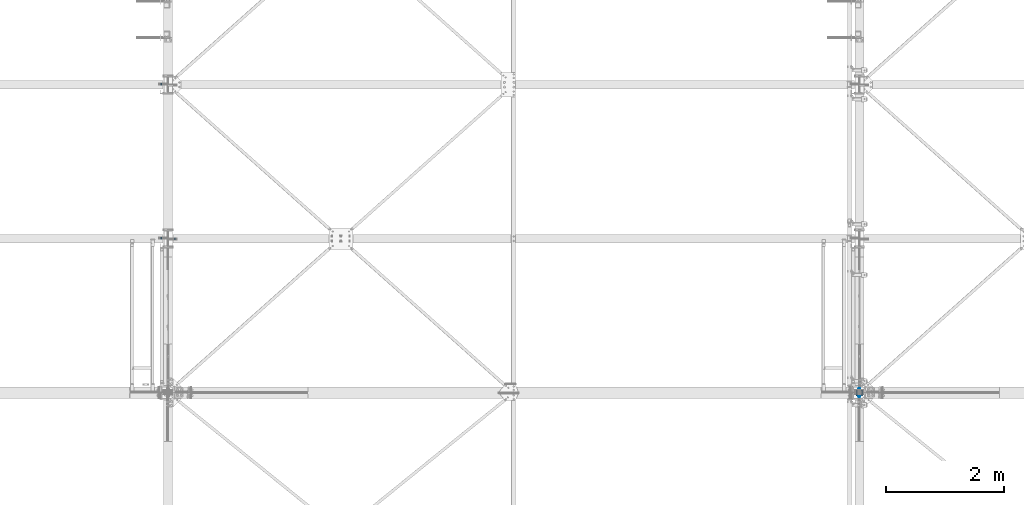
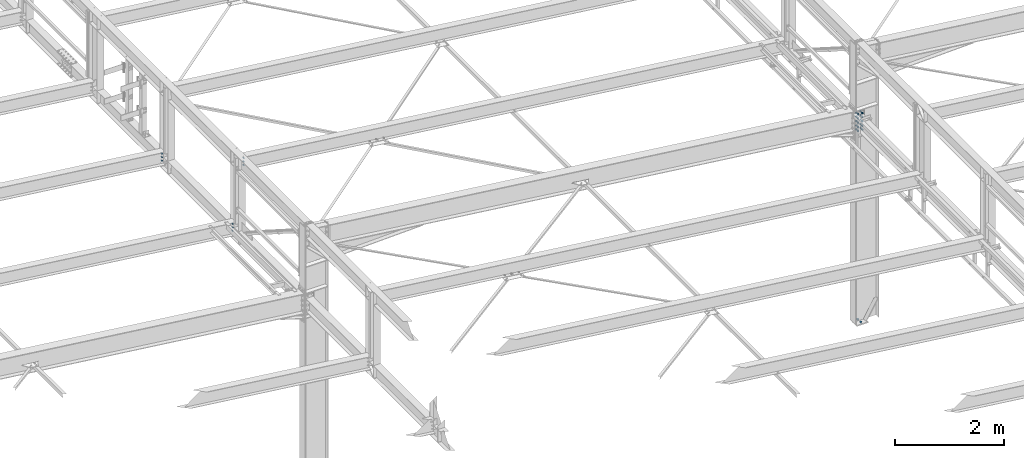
# One storey, part 139 of 3134: 5 mechanical fasteners, 5 elements without a shape of their own.
"""IFC2X3 building model written with IfcOpenShell, lengths in millimetres."""

from ifc_helpers import new_model, si_unit, frame, origin_with_axes, place, context, subcontext, project, spatial, faceted_brep, source, transform, mapped, material, type_object, element, aggregate, save


model = new_model("IFC2X3")

# Units and contexts
model_context = context("Model", 3, precision=1e-05, world=origin_with_axes())
body_context = subcontext(model_context, "Body", "Model", "MODEL_VIEW")
ifc_project = project(units=[si_unit("LENGTHUNIT", "METRE", prefix="MILLI"), si_unit("AREAUNIT", "SQUARE_METRE"), si_unit("VOLUMEUNIT", "CUBIC_METRE"), si_unit("MASSUNIT", "GRAM", prefix="KILO"), si_unit("TIMEUNIT", "SECOND"), si_unit("PLANEANGLEUNIT", "RADIAN"), si_unit("SOLIDANGLEUNIT", "STERADIAN"), si_unit("THERMODYNAMICTEMPERATUREUNIT", "DEGREE_CELSIUS"), si_unit("LUMINOUSINTENSITYUNIT", "LUMEN")], contexts=[model_context])

# Site, building, storey
site_placement = place(None, origin_with_axes())
site = spatial("IfcSite", under=ifc_project, at=site_placement, CompositionType="ELEMENT")
building_placement = place(site_placement, origin_with_axes())
building = spatial("IfcBuilding", under=site, at=building_placement, Name="Undefined", CompositionType="ELEMENT")
storey_placement = place(building_placement, origin_with_axes())
storey = spatial("IfcBuildingStorey", under=building, at=storey_placement, Name="Undefined", CompositionType="ELEMENT", Elevation=0.0)

# Assembly, mechanical fastener
assembly_1_placement = place(storey_placement, origin_with_axes())
assembly_1 = element("IfcElementAssembly", 1, at=assembly_1_placement, inside=storey, Name="300", AssemblyPlace="NOTDEFINED", PredefinedType="RIGID_FRAME")
ifc_material_1 = material(Name="HR10.9")
mechanical_fastener_type = type_object("IfcMechanicalFastenerType", Name="Bolt assembly")
shared_shape_1 = source(origin_with_axes(), body_context, "Body", "Brep", [
    faceted_brep([(18.475208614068, -18.3999996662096, 0.0), (9.23760430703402, -18.3999996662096, 16.0), (-9.23760430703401, -18.3999996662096, 16.0), (-18.475208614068, -18.3999996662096, 2.2625605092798e-15), (-9.23760430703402, -18.3999996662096, -16.0), (9.237604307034, -18.3999996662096, -16.0), (9.237604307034, -4.50000004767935, -16.0), (-9.23760430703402, -4.50000004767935, -16.0), (-18.475208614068, -4.50000004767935, 2.2625605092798e-15), (-9.23760430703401, -4.50000004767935, 16.0), (9.23760430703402, -4.50000004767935, 16.0), (18.475208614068, -4.50000004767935, 0.0), (10.0, -4.50000004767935, 0.0), (8.66025403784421, -4.50000004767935, 5.0000000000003), (4.9999999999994, -4.50000004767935, 8.66025403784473), (-1.03633598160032e-12, -4.50000004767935, 10.0), (-5.00000000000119, -4.50000004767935, 8.6602540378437), (-8.66025403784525, -4.50000004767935, 4.99999999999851), (-10.0, -4.50000004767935, -2.07267196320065e-12), (-8.66025403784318, -4.50000004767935, -5.00000000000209), (-4.99999999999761, -4.50000004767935, -8.66025403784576), (3.09790571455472e-12, -4.50000004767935, -10.0), (5.00000000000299, -4.50000004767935, -8.66025403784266), (8.66025403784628, -4.50000004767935, -4.99999999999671), (8.66025403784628, 80.4999999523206, -4.99999999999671), (5.00000000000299, 80.4999999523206, -8.66025403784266), (3.09790571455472e-12, 80.4999999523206, -10.0), (-4.99999999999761, 80.4999999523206, -8.66025403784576), (-8.66025403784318, 80.4999999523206, -5.00000000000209), (-10.0, 80.4999999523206, -2.07267196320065e-12), (-8.66025403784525, 80.4999999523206, 4.99999999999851), (-5.00000000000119, 80.4999999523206, 8.6602540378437), (-1.03633598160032e-12, 80.4999999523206, 10.0), (4.9999999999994, 80.4999999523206, 8.66025403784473), (8.66025403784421, 80.4999999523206, 5.0000000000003), (10.0, 80.4999999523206, 0.0), (22.0, -4.50000004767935, 0.0), (19.0525588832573, -4.50000004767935, 11.0000000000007), (10.9999999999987, -4.50000004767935, 19.0525588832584), (-2.27993915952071e-12, -4.50000004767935, 22.0), (-11.0000000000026, -4.50000004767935, 19.0525588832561), (-19.0525588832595, -4.50000004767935, 10.9999999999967), (-22.0, -4.50000004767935, -4.55987831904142e-12), (-19.052558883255, -4.50000004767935, -11.0000000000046), (-10.9999999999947, -4.50000004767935, -19.0525588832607), (6.81539257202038e-12, -4.50000004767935, -22.0), (11.0000000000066, -4.50000004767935, -19.0525588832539), (19.0525588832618, -4.50000004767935, -10.9999999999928), (19.0525588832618, -0.799999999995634, -10.9999999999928), (11.0000000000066, -0.799999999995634, -19.0525588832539), (6.81539257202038e-12, -0.799999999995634, -22.0), (-10.9999999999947, -0.799999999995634, -19.0525588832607), (-19.052558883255, -0.799999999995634, -11.0000000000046), (-22.0, -0.799999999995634, -4.55987831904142e-12), (-19.0525588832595, -0.799999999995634, 10.9999999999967), (-11.0000000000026, -0.799999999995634, 19.0525588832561), (-2.27993915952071e-12, -0.799999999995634, 22.0), (10.9999999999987, -0.799999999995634, 19.0525588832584), (19.0525588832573, -0.799999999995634, 11.0000000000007), (22.0, -0.799999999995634, 0.0), (22.0, 49.4000000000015, 0.0), (19.0525588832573, 49.4000000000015, 11.0000000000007), (10.9999999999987, 49.4000000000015, 19.0525588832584), (-2.27993915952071e-12, 49.4000000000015, 22.0), (-11.0000000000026, 49.4000000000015, 19.0525588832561), (-19.0525588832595, 49.4000000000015, 10.9999999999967), (-22.0, 49.4000000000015, -4.55987831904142e-12), (-19.052558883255, 49.4000000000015, -11.0000000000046), (-10.9999999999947, 49.4000000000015, -19.0525588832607), (6.81539257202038e-12, 49.4000000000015, -22.0), (11.0000000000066, 49.4000000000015, -19.0525588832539), (19.0525588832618, 49.4000000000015, -10.9999999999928), (19.0525588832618, 53.1000000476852, -10.9999999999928), (11.0000000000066, 53.1000000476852, -19.0525588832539), (6.81539257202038e-12, 53.1000000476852, -22.0), (-10.9999999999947, 53.1000000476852, -19.0525588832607), (-19.052558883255, 53.1000000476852, -11.0000000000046), (-22.0, 53.1000000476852, -4.55987831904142e-12), (-19.0525588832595, 53.1000000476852, 10.9999999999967), (-11.0000000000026, 53.1000000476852, 19.0525588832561), (-2.27993915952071e-12, 53.1000000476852, 22.0), (10.9999999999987, 53.1000000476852, 19.0525588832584), (19.0525588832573, 53.1000000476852, 11.0000000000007), (22.0, 53.1000000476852, 0.0), (18.475208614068, 53.1000000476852, 0.0), (9.23760430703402, 53.1000000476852, 16.0), (-9.23760430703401, 53.1000000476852, 16.0), (-18.475208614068, 53.1000000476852, 2.2625605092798e-15), (-9.23760430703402, 53.1000000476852, -16.0), (9.237604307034, 53.1000000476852, -16.0), (9.237604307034, 71.6499992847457, -16.0), (-9.23760430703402, 71.6499992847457, -16.0), (-18.475208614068, 71.6499992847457, 2.2625605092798e-15), (-9.23760430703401, 71.6499992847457, 16.0), (9.23760430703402, 71.6499992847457, 16.0), (18.475208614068, 71.6499992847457, 0.0)], [[[0, 1, 2, 3, 4, 5]], [[6, 7, 8, 9, 10, 11]], [[0, 11, 10, 1]], [[1, 10, 9, 2]], [[2, 9, 8, 3]], [[3, 8, 7, 4]], [[4, 7, 6, 5]], [[5, 6, 11, 0]], [[12, 13, 14, 15, 16, 17, 18, 19, 20, 21, 22, 23]], [[24, 25, 26, 27, 28, 29, 30, 31, 32, 33, 34, 35]], [[12, 35, 34, 13]], [[13, 34, 33, 14]], [[14, 33, 32, 15]], [[15, 32, 31, 16]], [[16, 31, 30, 17]], [[17, 30, 29, 18]], [[18, 29, 28, 19]], [[19, 28, 27, 20]], [[20, 27, 26, 21]], [[21, 26, 25, 22]], [[22, 25, 24, 23]], [[23, 24, 35, 12]], [[36, 37, 38, 39, 40, 41, 42, 43, 44, 45, 46, 47]], [[48, 49, 50, 51, 52, 53, 54, 55, 56, 57, 58, 59]], [[36, 59, 58, 37]], [[37, 58, 57, 38]], [[38, 57, 56, 39]], [[39, 56, 55, 40]], [[40, 55, 54, 41]], [[41, 54, 53, 42]], [[42, 53, 52, 43]], [[43, 52, 51, 44]], [[44, 51, 50, 45]], [[45, 50, 49, 46]], [[46, 49, 48, 47]], [[47, 48, 59, 36]], [[60, 61, 62, 63, 64, 65, 66, 67, 68, 69, 70, 71]], [[72, 73, 74, 75, 76, 77, 78, 79, 80, 81, 82, 83]], [[60, 83, 82, 61]], [[61, 82, 81, 62]], [[62, 81, 80, 63]], [[63, 80, 79, 64]], [[64, 79, 78, 65]], [[65, 78, 77, 66]], [[66, 77, 76, 67]], [[67, 76, 75, 68]], [[68, 75, 74, 69]], [[69, 74, 73, 70]], [[70, 73, 72, 71]], [[71, 72, 83, 60]], [[84, 85, 86, 87, 88, 89]], [[90, 91, 92, 93, 94, 95]], [[84, 95, 94, 85]], [[85, 94, 93, 86]], [[86, 93, 92, 87]], [[87, 92, 91, 88]], [[88, 91, 90, 89]], [[89, 90, 95, 84]]]),
    faceted_brep([(11.0, 19.2000000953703, 0.0), (9.52627944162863, 19.2000000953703, 5.50000000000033), (5.49999999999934, 19.2000000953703, 9.5262794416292), (-1.13996957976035e-12, 19.2000000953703, 11.0), (-5.50000000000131, 19.2000000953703, 9.52627944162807), (-9.52627944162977, 19.2000000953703, 5.49999999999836), (-11.0, 19.2000000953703, -2.27993915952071e-12), (-9.5262794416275, 19.2000000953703, -5.5000000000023), (-5.49999999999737, 19.2000000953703, -9.52627944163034), (3.40769628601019e-12, 19.2000000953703, -11.0), (5.50000000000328, 19.2000000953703, -9.52627944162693), (9.52627944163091, 19.2000000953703, -5.49999999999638), (9.52627944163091, 29.3999999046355, -5.49999999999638), (5.50000000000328, 29.3999999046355, -9.52627944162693), (3.40769628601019e-12, 29.3999999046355, -11.0), (-5.49999999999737, 29.3999999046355, -9.52627944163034), (-9.5262794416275, 29.3999999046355, -5.5000000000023), (-11.0, 29.3999999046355, -2.27993915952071e-12), (-9.52627944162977, 29.3999999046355, 5.49999999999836), (-5.50000000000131, 29.3999999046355, 9.52627944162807), (-1.13996957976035e-12, 29.3999999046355, 11.0), (5.49999999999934, 29.3999999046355, 9.5262794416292), (9.52627944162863, 29.3999999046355, 5.50000000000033), (11.0, 29.3999999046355, 0.0), (11.0, -0.699999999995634, 0.0), (9.52627944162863, -0.699999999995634, 5.50000000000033), (5.49999999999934, -0.699999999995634, 9.5262794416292), (-1.13996957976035e-12, -0.699999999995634, 11.0), (-5.50000000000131, -0.699999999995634, 9.52627944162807), (-9.52627944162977, -0.699999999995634, 5.49999999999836), (-11.0, -0.699999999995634, -2.27993915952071e-12), (-9.5262794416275, -0.699999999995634, -5.5000000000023), (-5.49999999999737, -0.699999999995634, -9.52627944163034), (3.40769628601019e-12, -0.699999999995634, -11.0), (5.50000000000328, -0.699999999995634, -9.52627944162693), (9.52627944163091, -0.699999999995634, -5.49999999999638), (9.52627944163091, 19.3000000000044, -5.49999999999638), (5.50000000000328, 19.3000000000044, -9.52627944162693), (3.40769628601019e-12, 19.3000000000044, -11.0), (-5.49999999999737, 19.3000000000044, -9.52627944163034), (-9.5262794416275, 19.3000000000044, -5.5000000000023), (-11.0, 19.3000000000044, -2.27993915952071e-12), (-9.52627944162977, 19.3000000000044, 5.49999999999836), (-5.50000000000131, 19.3000000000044, 9.52627944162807), (-1.13996957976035e-12, 19.3000000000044, 11.0), (5.49999999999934, 19.3000000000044, 9.5262794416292), (9.52627944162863, 19.3000000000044, 5.50000000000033), (11.0, 19.3000000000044, 0.0), (11.0, 29.3000000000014, 0.0), (9.52627944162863, 29.3000000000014, 5.50000000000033), (5.49999999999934, 29.3000000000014, 9.5262794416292), (-1.13996957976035e-12, 29.3000000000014, 11.0), (-5.50000000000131, 29.3000000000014, 9.52627944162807), (-9.52627944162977, 29.3000000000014, 5.49999999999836), (-11.0, 29.3000000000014, -2.27993915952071e-12), (-9.5262794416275, 29.3000000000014, -5.5000000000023), (-5.49999999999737, 29.3000000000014, -9.52627944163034), (3.40769628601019e-12, 29.3000000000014, -11.0), (5.50000000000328, 29.3000000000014, -9.52627944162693), (9.52627944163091, 29.3000000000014, -5.49999999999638), (9.52627944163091, 49.4000000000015, -5.49999999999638), (5.50000000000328, 49.4000000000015, -9.52627944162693), (3.40769628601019e-12, 49.4000000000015, -11.0), (-5.49999999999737, 49.4000000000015, -9.52627944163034), (-9.5262794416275, 49.4000000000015, -5.5000000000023), (-11.0, 49.4000000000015, -2.27993915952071e-12), (-9.52627944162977, 49.4000000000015, 5.49999999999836), (-5.50000000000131, 49.4000000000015, 9.52627944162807), (-1.13996957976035e-12, 49.4000000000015, 11.0), (5.49999999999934, 49.4000000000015, 9.5262794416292), (9.52627944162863, 49.4000000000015, 5.50000000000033), (11.0, 49.4000000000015, 0.0)], [[[0, 1, 2, 3, 4, 5, 6, 7, 8, 9, 10, 11]], [[12, 13, 14, 15, 16, 17, 18, 19, 20, 21, 22, 23]], [[0, 23, 22, 1]], [[1, 22, 21, 2]], [[2, 21, 20, 3]], [[3, 20, 19, 4]], [[4, 19, 18, 5]], [[5, 18, 17, 6]], [[6, 17, 16, 7]], [[7, 16, 15, 8]], [[8, 15, 14, 9]], [[9, 14, 13, 10]], [[10, 13, 12, 11]], [[11, 12, 23, 0]], [[24, 25, 26, 27, 28, 29, 30, 31, 32, 33, 34, 35]], [[36, 37, 38, 39, 40, 41, 42, 43, 44, 45, 46, 47]], [[24, 47, 46, 25]], [[25, 46, 45, 26]], [[26, 45, 44, 27]], [[27, 44, 43, 28]], [[28, 43, 42, 29]], [[29, 42, 41, 30]], [[30, 41, 40, 31]], [[31, 40, 39, 32]], [[32, 39, 38, 33]], [[33, 38, 37, 34]], [[34, 37, 36, 35]], [[35, 36, 47, 24]], [[48, 49, 50, 51, 52, 53, 54, 55, 56, 57, 58, 59]], [[60, 61, 62, 63, 64, 65, 66, 67, 68, 69, 70, 71]], [[48, 71, 70, 49]], [[49, 70, 69, 50]], [[50, 69, 68, 51]], [[51, 68, 67, 52]], [[52, 67, 66, 53]], [[53, 66, 65, 54]], [[54, 65, 64, 55]], [[55, 64, 63, 56]], [[56, 63, 62, 57]], [[57, 62, 61, 58]], [[58, 61, 60, 59]], [[59, 60, 71, 48]]]),
])
mechanical_fastener_1_placement = place(assembly_1_placement, frame((44200.0, 19474.3, 4273.5), z_axis=(-1.0, 0.0, 0.0), x_axis=(0.0, 0.0, -1.0)))
mechanical_fastener_1 = element("IfcMechanicalFastener", 2, at=mechanical_fastener_1_placement, type_object=mechanical_fastener_type, material=ifc_material_1, Name="Bolt assembly", NominalDiameter=20.0, NominalLength=85.0, context=body_context, shape_type="MappedRepresentation", body=[
    mapped(shared_shape_1, transform((0.0, 0.0, -45.0))),
    mapped(shared_shape_1, transform((85.0, 0.0, -45.0))),
    mapped(shared_shape_1, transform((185.0, 0.0, -45.0))),
    mapped(shared_shape_1, transform((285.0, 0.0, -45.0))),
    mapped(shared_shape_1, transform((370.0, 0.0, -45.0))),
    mapped(shared_shape_1, transform((0.0, 0.0, 45.0))),
    mapped(shared_shape_1, transform((85.0, 0.0, 45.0))),
    mapped(shared_shape_1, transform((185.0, 0.0, 45.0))),
    mapped(shared_shape_1, transform((285.0, 0.0, 45.0))),
    mapped(shared_shape_1, transform((370.0, 0.0, 45.0))),
])
aggregate(assembly_1, [mechanical_fastener_1])

assembly_2_placement = place(storey_placement, origin_with_axes())
assembly_2 = element("IfcElementAssembly", 3, at=assembly_2_placement, inside=storey, Name="300", AssemblyPlace="NOTDEFINED", PredefinedType="RIGID_FRAME")
ifc_material_2 = material(Name="8.8")
shared_shape_2 = source(origin_with_axes(), body_context, "Body", "Brep", [
    faceted_brep([(13.856406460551, -13.0499999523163, 0.0), (6.92820323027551, -13.0499999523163, 12.0), (-6.92820323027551, -13.0499999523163, 12.0), (-13.856406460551, -13.0499999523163, 1.69692038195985e-15), (-6.92820323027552, -13.0499999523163, -12.0), (6.9282032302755, -13.0499999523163, -12.0), (6.9282032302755, -3.04999995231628, -12.0), (-6.92820323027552, -3.04999995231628, -12.0), (-13.856406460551, -3.04999995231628, 1.69692038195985e-15), (-6.92820323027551, -3.04999995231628, 12.0), (6.92820323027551, -3.04999995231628, 12.0), (13.856406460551, -3.04999995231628, 0.0), (8.0, -3.04999995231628, 0.0), (6.92820323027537, -3.04999995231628, 4.00000000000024), (3.99999999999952, -3.04999995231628, 6.92820323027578), (-8.29068785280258e-13, -3.04999995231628, 8.0), (-4.00000000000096, -3.04999995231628, 6.92820323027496), (-6.9282032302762, -3.04999995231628, 3.99999999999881), (-8.0, -3.04999995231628, -1.65813757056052e-12), (-6.92820323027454, -3.04999995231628, -4.00000000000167), (-3.99999999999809, -3.04999995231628, -6.92820323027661), (2.47832457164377e-12, -3.04999995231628, -8.0), (4.00000000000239, -3.04999995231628, -6.92820323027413), (6.92820323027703, -3.04999995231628, -3.99999999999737), (6.92820323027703, 31.9500000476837, -3.99999999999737), (4.00000000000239, 31.9500000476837, -6.92820323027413), (2.47832457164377e-12, 31.9500000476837, -8.0), (-3.99999999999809, 31.9500000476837, -6.92820323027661), (-6.92820323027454, 31.9500000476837, -4.00000000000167), (-8.0, 31.9500000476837, -1.65813757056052e-12), (-6.9282032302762, 31.9500000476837, 3.99999999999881), (-4.00000000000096, 31.9500000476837, 6.92820323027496), (-8.29068785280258e-13, 31.9500000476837, 8.0), (3.99999999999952, 31.9500000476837, 6.92820323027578), (6.92820323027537, 31.9500000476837, 4.00000000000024), (8.0, 31.9500000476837, 0.0), (13.856406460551, 13.0500000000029, 0.0), (6.92820323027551, 13.0500000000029, 12.0), (-6.92820323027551, 13.0500000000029, 12.0), (-13.856406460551, 13.0500000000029, 1.69692038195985e-15), (-6.92820323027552, 13.0500000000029, -12.0), (6.9282032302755, 13.0500000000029, -12.0), (6.9282032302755, 26.0500000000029, -12.0), (-6.92820323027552, 26.0500000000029, -12.0), (-13.856406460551, 26.0500000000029, 1.69692038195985e-15), (-6.92820323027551, 26.0500000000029, 12.0), (6.92820323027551, 26.0500000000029, 12.0), (13.856406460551, 26.0500000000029, 0.0)], [[[0, 1, 2, 3, 4, 5]], [[6, 7, 8, 9, 10, 11]], [[0, 11, 10, 1]], [[1, 10, 9, 2]], [[2, 9, 8, 3]], [[3, 8, 7, 4]], [[4, 7, 6, 5]], [[5, 6, 11, 0]], [[12, 13, 14, 15, 16, 17, 18, 19, 20, 21, 22, 23]], [[24, 25, 26, 27, 28, 29, 30, 31, 32, 33, 34, 35]], [[12, 35, 34, 13]], [[13, 34, 33, 14]], [[14, 33, 32, 15]], [[15, 32, 31, 16]], [[16, 31, 30, 17]], [[17, 30, 29, 18]], [[18, 29, 28, 19]], [[19, 28, 27, 20]], [[20, 27, 26, 21]], [[21, 26, 25, 22]], [[22, 25, 24, 23]], [[23, 24, 35, 12]], [[36, 37, 38, 39, 40, 41]], [[42, 43, 44, 45, 46, 47]], [[36, 47, 46, 37]], [[37, 46, 45, 38]], [[38, 45, 44, 39]], [[39, 44, 43, 40]], [[40, 43, 42, 41]], [[41, 42, 47, 36]]]),
    faceted_brep([(9.0, 2.95000000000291, 0.0), (7.79422863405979, 2.95000000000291, 4.50000000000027), (4.49999999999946, 2.95000000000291, 7.79422863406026), (-9.3270238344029e-13, 2.95000000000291, 9.0), (-4.50000000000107, 2.95000000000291, 7.79422863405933), (-7.79422863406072, 2.95000000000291, 4.49999999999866), (-9.0, 2.95000000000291, -1.86540476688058e-12), (-7.79422863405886, 2.95000000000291, -4.50000000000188), (-4.49999999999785, 2.95000000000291, -7.79422863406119), (2.78811514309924e-12, 2.95000000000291, -9.0), (4.50000000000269, 2.95000000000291, -7.7942286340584), (7.79422863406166, 2.95000000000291, -4.49999999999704), (7.79422863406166, 13.0500000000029, -4.49999999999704), (4.50000000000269, 13.0500000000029, -7.7942286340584), (2.78811514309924e-12, 13.0500000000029, -9.0), (-4.49999999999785, 13.0500000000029, -7.79422863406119), (-7.79422863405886, 13.0500000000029, -4.50000000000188), (-9.0, 13.0500000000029, -1.86540476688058e-12), (-7.79422863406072, 13.0500000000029, 4.49999999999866), (-4.50000000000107, 13.0500000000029, 7.79422863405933), (-9.3270238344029e-13, 13.0500000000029, 9.0), (4.49999999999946, 13.0500000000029, 7.79422863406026), (7.79422863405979, 13.0500000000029, 4.50000000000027), (9.0, 13.0500000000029, 0.0), (9.0, -2.94999995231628, 0.0), (7.79422863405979, -2.94999995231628, 4.50000000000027), (4.49999999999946, -2.94999995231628, 7.79422863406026), (-9.3270238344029e-13, -2.94999995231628, 9.0), (-4.50000000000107, -2.94999995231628, 7.79422863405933), (-7.79422863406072, -2.94999995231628, 4.49999999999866), (-9.0, -2.94999995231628, -1.86540476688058e-12), (-7.79422863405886, -2.94999995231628, -4.50000000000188), (-4.49999999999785, -2.94999995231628, -7.79422863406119), (2.78811514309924e-12, -2.94999995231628, -9.0), (4.50000000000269, -2.94999995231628, -7.7942286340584), (7.79422863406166, -2.94999995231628, -4.49999999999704), (7.79422863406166, 3.14999995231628, -4.49999999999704), (4.50000000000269, 3.14999995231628, -7.7942286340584), (2.78811514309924e-12, 3.14999995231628, -9.0), (-4.49999999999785, 3.14999995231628, -7.79422863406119), (-7.79422863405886, 3.14999995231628, -4.50000000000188), (-9.0, 3.14999995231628, -1.86540476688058e-12), (-7.79422863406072, 3.14999995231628, 4.49999999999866), (-4.50000000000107, 3.14999995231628, 7.79422863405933), (-9.3270238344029e-13, 3.14999995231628, 9.0), (4.49999999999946, 3.14999995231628, 7.79422863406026), (7.79422863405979, 3.14999995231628, 4.50000000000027), (9.0, 3.14999995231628, 0.0)], [[[0, 1, 2, 3, 4, 5, 6, 7, 8, 9, 10, 11]], [[12, 13, 14, 15, 16, 17, 18, 19, 20, 21, 22, 23]], [[0, 23, 22, 1]], [[1, 22, 21, 2]], [[2, 21, 20, 3]], [[3, 20, 19, 4]], [[4, 19, 18, 5]], [[5, 18, 17, 6]], [[6, 17, 16, 7]], [[7, 16, 15, 8]], [[8, 15, 14, 9]], [[9, 14, 13, 10]], [[10, 13, 12, 11]], [[11, 12, 23, 0]], [[24, 25, 26, 27, 28, 29, 30, 31, 32, 33, 34, 35]], [[36, 37, 38, 39, 40, 41, 42, 43, 44, 45, 46, 47]], [[24, 47, 46, 25]], [[25, 46, 45, 26]], [[26, 45, 44, 27]], [[27, 44, 43, 28]], [[28, 43, 42, 29]], [[29, 42, 41, 30]], [[30, 41, 40, 31]], [[31, 40, 39, 32]], [[32, 39, 38, 33]], [[33, 38, 37, 34]], [[34, 37, 36, 35]], [[35, 36, 47, 24]]]),
])
mechanical_fastener_2_placement = place(assembly_2_placement, frame((32410.0, 22050.0, 4337.44269270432), z_axis=(1.0, 0.0, 0.0), x_axis=(0.0, 0.0, -1.0)))
mechanical_fastener_2 = element("IfcMechanicalFastener", 4, at=mechanical_fastener_2_placement, type_object=mechanical_fastener_type, material=ifc_material_2, Name="Bolt assembly", NominalDiameter=16.0, NominalLength=35.0, context=body_context, shape_type="MappedRepresentation", body=[
    mapped(shared_shape_2, transform((0.0, 0.0, 0.0))),
    mapped(shared_shape_2, transform((80.0, 0.0, 0.0))),
    mapped(shared_shape_2, transform((160.0, 0.0, 0.0))),
])
aggregate(assembly_2, [mechanical_fastener_2])

assembly_3_placement = place(storey_placement, origin_with_axes())
assembly_3 = element("IfcElementAssembly", 5, at=assembly_3_placement, inside=storey, Name="300", AssemblyPlace="NOTDEFINED", PredefinedType="RIGID_FRAME")
mechanical_fastener_3_placement = place(assembly_3_placement, frame((32410.0, 24650.0, 4337.44269270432), z_axis=(1.0, 0.0, 0.0), x_axis=(0.0, 0.0, -1.0)))
mechanical_fastener_3 = element("IfcMechanicalFastener", 6, at=mechanical_fastener_3_placement, type_object=mechanical_fastener_type, material=ifc_material_2, Name="Bolt assembly", NominalDiameter=16.0, NominalLength=35.0, context=body_context, shape_type="MappedRepresentation", body=[
    mapped(shared_shape_2, transform((0.0, 0.0, 0.0))),
    mapped(shared_shape_2, transform((80.0, 0.0, 0.0))),
    mapped(shared_shape_2, transform((160.0, 0.0, 0.0))),
])
aggregate(assembly_3, [mechanical_fastener_3])

assembly_4_placement = place(storey_placement, origin_with_axes())
assembly_4 = element("IfcElementAssembly", 7, at=assembly_4_placement, inside=storey, Name="300", AssemblyPlace="NOTDEFINED", PredefinedType="RIGID_FRAME")
shared_shape_3 = source(origin_with_axes(), body_context, "Body", "Brep", [
    faceted_brep([(13.856406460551, -23.0499999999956, 0.0), (6.92820323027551, -23.0499999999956, 12.0), (-6.92820323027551, -23.0499999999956, 12.0), (-13.856406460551, -23.0499999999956, 1.69692038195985e-15), (-6.92820323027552, -23.0499999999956, -12.0), (6.9282032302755, -23.0499999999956, -12.0), (6.9282032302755, -13.0499999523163, -12.0), (-6.92820323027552, -13.0499999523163, -12.0), (-13.856406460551, -13.0499999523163, 1.69692038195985e-15), (-6.92820323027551, -13.0499999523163, 12.0), (6.92820323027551, -13.0499999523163, 12.0), (13.856406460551, -13.0499999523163, 0.0), (8.0, -13.0499999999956, 0.0), (6.92820323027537, -13.0499999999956, 4.00000000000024), (3.99999999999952, -13.0499999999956, 6.92820323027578), (-8.29068785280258e-13, -13.0499999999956, 8.0), (-4.00000000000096, -13.0499999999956, 6.92820323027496), (-6.9282032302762, -13.0499999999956, 3.99999999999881), (-8.0, -13.0499999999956, -1.65813757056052e-12), (-6.92820323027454, -13.0499999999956, -4.00000000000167), (-3.99999999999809, -13.0499999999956, -6.92820323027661), (2.47832457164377e-12, -13.0499999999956, -8.0), (4.00000000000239, -13.0499999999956, -6.92820323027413), (6.92820323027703, -13.0499999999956, -3.99999999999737), (6.92820323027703, 21.9500000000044, -3.99999999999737), (4.00000000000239, 21.9500000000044, -6.92820323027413), (2.47832457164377e-12, 21.9500000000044, -8.0), (-3.99999999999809, 21.9500000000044, -6.92820323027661), (-6.92820323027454, 21.9500000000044, -4.00000000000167), (-8.0, 21.9500000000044, -1.65813757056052e-12), (-6.9282032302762, 21.9500000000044, 3.99999999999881), (-4.00000000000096, 21.9500000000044, 6.92820323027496), (-8.29068785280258e-13, 21.9500000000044, 8.0), (3.99999999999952, 21.9500000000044, 6.92820323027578), (6.92820323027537, 21.9500000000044, 4.00000000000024), (8.0, 21.9500000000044, 0.0), (13.856406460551, 3.04999995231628, 0.0), (6.92820323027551, 3.04999995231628, 12.0), (-6.92820323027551, 3.04999995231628, 12.0), (-13.856406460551, 3.04999995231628, 1.69692038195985e-15), (-6.92820323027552, 3.04999995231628, -12.0), (6.9282032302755, 3.04999995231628, -12.0), (6.9282032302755, 16.0499999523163, -12.0), (-6.92820323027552, 16.0499999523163, -12.0), (-13.856406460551, 16.0499999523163, 1.69692038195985e-15), (-6.92820323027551, 16.0499999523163, 12.0), (6.92820323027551, 16.0499999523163, 12.0), (13.856406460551, 16.0499999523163, 0.0)], [[[0, 1, 2, 3, 4, 5]], [[6, 7, 8, 9, 10, 11]], [[0, 11, 10, 1]], [[1, 10, 9, 2]], [[2, 9, 8, 3]], [[3, 8, 7, 4]], [[4, 7, 6, 5]], [[5, 6, 11, 0]], [[12, 13, 14, 15, 16, 17, 18, 19, 20, 21, 22, 23]], [[24, 25, 26, 27, 28, 29, 30, 31, 32, 33, 34, 35]], [[12, 35, 34, 13]], [[13, 34, 33, 14]], [[14, 33, 32, 15]], [[15, 32, 31, 16]], [[16, 31, 30, 17]], [[17, 30, 29, 18]], [[18, 29, 28, 19]], [[19, 28, 27, 20]], [[20, 27, 26, 21]], [[21, 26, 25, 22]], [[22, 25, 24, 23]], [[23, 24, 35, 12]], [[36, 37, 38, 39, 40, 41]], [[42, 43, 44, 45, 46, 47]], [[36, 47, 46, 37]], [[37, 46, 45, 38]], [[38, 45, 44, 39]], [[39, 44, 43, 40]], [[40, 43, 42, 41]], [[41, 42, 47, 36]]]),
    faceted_brep([(9.0, -12.9499999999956, 0.0), (7.79422863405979, -12.9499999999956, 4.50000000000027), (4.49999999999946, -12.9499999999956, 7.79422863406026), (-9.3270238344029e-13, -12.9499999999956, 9.0), (-4.50000000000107, -12.9499999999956, 7.79422863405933), (-7.79422863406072, -12.9499999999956, 4.49999999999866), (-9.0, -12.9499999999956, -1.86540476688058e-12), (-7.79422863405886, -12.9499999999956, -4.50000000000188), (-4.49999999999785, -12.9499999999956, -7.79422863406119), (2.78811514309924e-12, -12.9499999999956, -9.0), (4.50000000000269, -12.9499999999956, -7.7942286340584), (7.79422863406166, -12.9499999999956, -4.49999999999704), (7.79422863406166, -2.94999995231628, -4.49999999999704), (4.50000000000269, -2.94999995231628, -7.7942286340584), (2.78811514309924e-12, -2.94999995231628, -9.0), (-4.49999999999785, -2.94999995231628, -7.79422863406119), (-7.79422863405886, -2.94999995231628, -4.50000000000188), (-9.0, -2.94999995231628, -1.86540476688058e-12), (-7.79422863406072, -2.94999995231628, 4.49999999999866), (-4.50000000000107, -2.94999995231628, 7.79422863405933), (-9.3270238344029e-13, -2.94999995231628, 9.0), (4.49999999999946, -2.94999995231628, 7.79422863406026), (7.79422863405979, -2.94999995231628, 4.50000000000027), (9.0, -2.94999995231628, 0.0), (9.0, -3.14999995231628, 0.0), (7.79422863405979, -3.14999995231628, 4.50000000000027), (4.49999999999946, -3.14999995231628, 7.79422863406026), (-9.3270238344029e-13, -3.14999995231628, 9.0), (-4.50000000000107, -3.14999995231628, 7.79422863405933), (-7.79422863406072, -3.14999995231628, 4.49999999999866), (-9.0, -3.14999995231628, -1.86540476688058e-12), (-7.79422863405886, -3.14999995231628, -4.50000000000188), (-4.49999999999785, -3.14999995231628, -7.79422863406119), (2.78811514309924e-12, -3.14999995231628, -9.0), (4.50000000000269, -3.14999995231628, -7.7942286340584), (7.79422863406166, -3.14999995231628, -4.49999999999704), (7.79422863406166, 3.04999995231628, -4.49999999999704), (4.50000000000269, 3.04999995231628, -7.7942286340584), (2.78811514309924e-12, 3.04999995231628, -9.0), (-4.49999999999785, 3.04999995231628, -7.79422863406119), (-7.79422863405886, 3.04999995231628, -4.50000000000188), (-9.0, 3.04999995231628, -1.86540476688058e-12), (-7.79422863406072, 3.04999995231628, 4.49999999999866), (-4.50000000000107, 3.04999995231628, 7.79422863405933), (-9.3270238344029e-13, 3.04999995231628, 9.0), (4.49999999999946, 3.04999995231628, 7.79422863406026), (7.79422863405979, 3.04999995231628, 4.50000000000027), (9.0, 3.04999995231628, 0.0)], [[[0, 1, 2, 3, 4, 5, 6, 7, 8, 9, 10, 11]], [[12, 13, 14, 15, 16, 17, 18, 19, 20, 21, 22, 23]], [[0, 23, 22, 1]], [[1, 22, 21, 2]], [[2, 21, 20, 3]], [[3, 20, 19, 4]], [[4, 19, 18, 5]], [[5, 18, 17, 6]], [[6, 17, 16, 7]], [[7, 16, 15, 8]], [[8, 15, 14, 9]], [[9, 14, 13, 10]], [[10, 13, 12, 11]], [[11, 12, 23, 0]], [[24, 25, 26, 27, 28, 29, 30, 31, 32, 33, 34, 35]], [[36, 37, 38, 39, 40, 41, 42, 43, 44, 45, 46, 47]], [[24, 47, 46, 25]], [[25, 46, 45, 26]], [[26, 45, 44, 27]], [[27, 44, 43, 28]], [[28, 43, 42, 29]], [[29, 42, 41, 30]], [[30, 41, 40, 31]], [[31, 40, 39, 32]], [[32, 39, 38, 33]], [[33, 38, 37, 34]], [[34, 37, 36, 35]], [[35, 36, 47, 24]]]),
])
mechanical_fastener_4_placement = place(assembly_4_placement, frame((32640.0, 22050.0, 5735.35014950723), z_axis=(1.0, 0.0, 0.0), x_axis=(0.0, 0.0, -1.0)))
mechanical_fastener_4 = element("IfcMechanicalFastener", 8, at=mechanical_fastener_4_placement, type_object=mechanical_fastener_type, material=ifc_material_2, Name="Bolt assembly", NominalDiameter=16.0, NominalLength=35.0, context=body_context, shape_type="MappedRepresentation", body=[
    mapped(shared_shape_3, transform((0.0, 0.0, 0.0))),
    mapped(shared_shape_3, transform((80.0, 0.0, 0.0))),
    mapped(shared_shape_3, transform((160.0, 0.0, 0.0))),
])
aggregate(assembly_4, [mechanical_fastener_4])

assembly_5_placement = place(storey_placement, origin_with_axes())
assembly_5 = element("IfcElementAssembly", 9, at=assembly_5_placement, inside=storey, Name="IPE500", AssemblyPlace="NOTDEFINED", PredefinedType="RIGID_FRAME")
shared_shape_4 = source(origin_with_axes(), body_context, "Body", "Brep", [
    faceted_brep([(16.5, -25.0, 0.0), (14.289419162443, -25.0, 8.25000000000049), (8.24999999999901, -25.0, 14.2894191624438), (-1.70995436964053e-12, -25.0, 16.5), (-8.25000000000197, -25.0, 14.2894191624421), (-14.2894191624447, -25.0, 8.24999999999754), (-16.5, -25.0, -3.41990873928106e-12), (-14.2894191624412, -25.0, -8.25000000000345), (-8.24999999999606, -25.0, -14.2894191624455), (5.11154442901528e-12, -25.0, -16.5), (8.25000000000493, -25.0, -14.2894191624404), (14.2894191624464, -25.0, -8.24999999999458), (14.2894191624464, 0.1, -8.24999999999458), (8.25000000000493, 0.1, -14.2894191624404), (5.11154442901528e-12, 0.1, -16.5), (-8.24999999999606, 0.1, -14.2894191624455), (-14.2894191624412, 0.1, -8.25000000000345), (-16.5, 0.1, -3.41990873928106e-12), (-14.2894191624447, 0.1, 8.24999999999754), (-8.25000000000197, 0.1, 14.2894191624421), (-1.70995436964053e-12, 0.1, 16.5), (8.24999999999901, 0.1, 14.2894191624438), (14.289419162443, 0.1, 8.25000000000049), (16.5, 0.1, 0.0)], [[[0, 1, 2, 3, 4, 5, 6, 7, 8, 9, 10, 11]], [[12, 13, 14, 15, 16, 17, 18, 19, 20, 21, 22, 23]], [[0, 23, 22, 1]], [[1, 22, 21, 2]], [[2, 21, 20, 3]], [[3, 20, 19, 4]], [[4, 19, 18, 5]], [[5, 18, 17, 6]], [[6, 17, 16, 7]], [[7, 16, 15, 8]], [[8, 15, 14, 9]], [[9, 14, 13, 10]], [[10, 13, 12, 11]], [[11, 12, 23, 0]]]),
])
mechanical_fastener_5_placement = place(assembly_5_placement, frame((44680.0, 19450.0, -375.0), z_axis=(0.0, 1.0, 0.0), x_axis=(-1.0, 0.0, 0.0)))
mechanical_fastener_5 = element("IfcMechanicalFastener", 10, at=mechanical_fastener_5_placement, type_object=mechanical_fastener_type, material=ifc_material_2, Name="Bolt assembly", NominalDiameter=30.0, NominalLength=25.0, context=body_context, shape_type="MappedRepresentation", body=[
    mapped(shared_shape_4, transform((480.0, 0.0, -60.0))),
    mapped(shared_shape_4, transform((480.0, 0.0, 60.0))),
])
aggregate(assembly_5, [mechanical_fastener_5])

save(model, "model.ifc")
